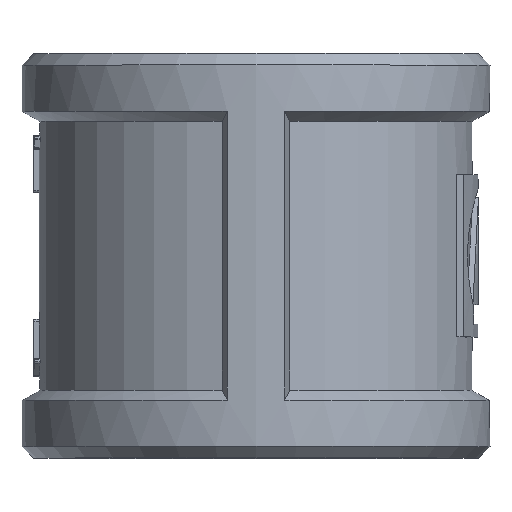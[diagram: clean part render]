
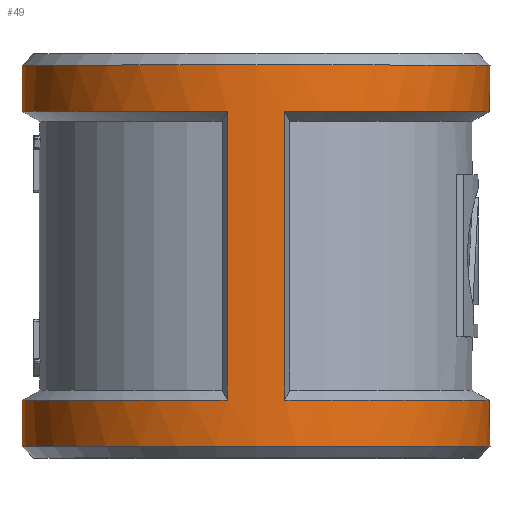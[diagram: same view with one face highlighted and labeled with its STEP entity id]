
A CAD part, top view. The second image highlights one B-rep face of the part: STEP entity #49.
In plain terms, the highlighted cylindrical face has radius 20.25 mm (diameter 40.5 mm), a full revolution.
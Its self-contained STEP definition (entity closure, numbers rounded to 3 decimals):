
#49=ADVANCED_FACE('',(#209,#211,#213,#215),#217,.T.);
#209=FACE_BOUND('',#210,.T.);
#210=EDGE_LOOP('',(#998,#999,#1000,#1001,#1002,#1003));
#211=FACE_OUTER_BOUND('',#212,.T.);
#212=EDGE_LOOP('',(#1004));
#213=FACE_OUTER_BOUND('',#214,.T.);
#214=EDGE_LOOP('',(#1005));
#215=FACE_BOUND('',#216,.T.);
#216=EDGE_LOOP('',(#1006,#1007,#1008,#1009));
#217=CYLINDRICAL_SURFACE('',#218,20.25);
#218=AXIS2_PLACEMENT_3D('',#219,#220,#221);
#219=CARTESIAN_POINT('',(0.,-12.5,0.));
#220=DIRECTION('',(0.,1.,0.));
#221=DIRECTION('',(-1.,0.,0.));
#998=ORIENTED_EDGE('',*,*,#1784,.F.);
#999=ORIENTED_EDGE('',*,*,#1785,.F.);
#1000=ORIENTED_EDGE('',*,*,#1786,.F.);
#1001=ORIENTED_EDGE('',*,*,#1787,.T.);
#1002=ORIENTED_EDGE('',*,*,#1788,.F.);
#1003=ORIENTED_EDGE('',*,*,#1789,.F.);
#1004=ORIENTED_EDGE('',*,*,#1782,.F.);
#1005=ORIENTED_EDGE('',*,*,#1783,.T.);
#1006=ORIENTED_EDGE('',*,*,#1790,.F.);
#1007=ORIENTED_EDGE('',*,*,#1791,.T.);
#1008=ORIENTED_EDGE('',*,*,#1792,.F.);
#1009=ORIENTED_EDGE('',*,*,#1793,.F.);
#1782=EDGE_CURVE('',#2101,#2101,#2102,.T.);
#1783=EDGE_CURVE('',#2103,#2103,#2104,.T.);
#1784=EDGE_CURVE('',#2105,#2106,#2107,.T.);
#1785=EDGE_CURVE('',#2108,#2105,#2109,.T.);
#1786=EDGE_CURVE('',#2110,#2108,#2111,.T.);
#1787=EDGE_CURVE('',#2110,#2112,#2113,.T.);
#1788=EDGE_CURVE('',#2114,#2112,#2115,.F.);
#1789=EDGE_CURVE('',#2106,#2114,#2116,.F.);
#1790=EDGE_CURVE('',#2117,#2118,#2119,.T.);
#1791=EDGE_CURVE('',#2117,#2120,#2121,.T.);
#1792=EDGE_CURVE('',#2122,#2120,#2123,.F.);
#1793=EDGE_CURVE('',#2118,#2122,#2124,.T.);
#2101=VERTEX_POINT('',#2644);
#2102=CIRCLE('',#2645,20.25);
#2103=VERTEX_POINT('',#2649);
#2104=CIRCLE('',#2650,20.25);
#2105=VERTEX_POINT('',#2654);
#2106=VERTEX_POINT('',#2655);
#2107=LINE('',#2656,#2657);
#2108=VERTEX_POINT('',#2659);
#2109=CIRCLE('',#2660,20.25);
#2110=VERTEX_POINT('',#2664);
#2111=CIRCLE('',#2665,20.25);
#2112=VERTEX_POINT('',#2669);
#2113=LINE('',#2670,#2671);
#2114=VERTEX_POINT('',#2673);
#2115=CIRCLE('',#2674,20.25);
#2116=CIRCLE('',#2678,20.25);
#2117=VERTEX_POINT('',#2682);
#2118=VERTEX_POINT('',#2683);
#2119=CIRCLE('',#2684,20.25);
#2120=VERTEX_POINT('',#2688);
#2121=LINE('',#2689,#2690);
#2122=VERTEX_POINT('',#2692);
#2123=CIRCLE('',#2693,20.25);
#2124=LINE('',#2697,#2698);
#2644=CARTESIAN_POINT('',(-20.25,16.5,0.));
#2645=AXIS2_PLACEMENT_3D('',#2646,#2647,#2648);
#2646=CARTESIAN_POINT('',(0.,16.5,0.));
#2647=DIRECTION('',(0.,1.,0.));
#2648=DIRECTION('',(-1.,0.,0.));
#2649=CARTESIAN_POINT('',(-20.25,-16.5,0.));
#2650=AXIS2_PLACEMENT_3D('',#2651,#2652,#2653);
#2651=CARTESIAN_POINT('',(0.,-16.5,0.));
#2652=DIRECTION('',(0.,1.,0.));
#2653=DIRECTION('',(-1.,0.,0.));
#2654=CARTESIAN_POINT('',(-2.5,-12.5,20.095));
#2655=CARTESIAN_POINT('',(-2.5,12.5,20.095));
#2656=CARTESIAN_POINT('',(-2.5,-12.5,20.095));
#2657=VECTOR('',#2658,1.);
#2658=DIRECTION('',(0.,1.,0.));
#2659=CARTESIAN_POINT('',(-20.25,-12.5,0.));
#2660=AXIS2_PLACEMENT_3D('',#2661,#2662,#2663);
#2661=CARTESIAN_POINT('',(0.,-12.5,0.));
#2662=DIRECTION('',(0.,1.,0.));
#2663=DIRECTION('',(-1.,0.,0.));
#2664=CARTESIAN_POINT('',(-2.5,-12.5,-20.095));
#2665=AXIS2_PLACEMENT_3D('',#2666,#2667,#2668);
#2666=CARTESIAN_POINT('',(0.,-12.5,0.));
#2667=DIRECTION('',(0.,1.,0.));
#2668=DIRECTION('',(-0.123,0.,-0.992));
#2669=CARTESIAN_POINT('',(-2.5,12.5,-20.095));
#2670=CARTESIAN_POINT('',(-2.5,-12.5,-20.095));
#2671=VECTOR('',#2672,1.);
#2672=DIRECTION('',(0.,1.,0.));
#2673=CARTESIAN_POINT('',(-20.25,12.5,0.));
#2674=AXIS2_PLACEMENT_3D('',#2675,#2676,#2677);
#2675=CARTESIAN_POINT('',(0.,12.5,0.));
#2676=DIRECTION('',(0.,1.,0.));
#2677=DIRECTION('',(-0.123,0.,-0.992));
#2678=AXIS2_PLACEMENT_3D('',#2679,#2680,#2681);
#2679=CARTESIAN_POINT('',(0.,12.5,0.));
#2680=DIRECTION('',(0.,1.,0.));
#2681=DIRECTION('',(-1.,0.,0.));
#2682=CARTESIAN_POINT('',(2.5,-12.5,20.095));
#2683=CARTESIAN_POINT('',(2.5,-12.5,-20.095));
#2684=AXIS2_PLACEMENT_3D('',#2685,#2686,#2687);
#2685=CARTESIAN_POINT('',(0.,-12.5,0.));
#2686=DIRECTION('',(0.,1.,0.));
#2687=DIRECTION('',(0.123,0.,0.992));
#2688=CARTESIAN_POINT('',(2.5,12.5,20.095));
#2689=CARTESIAN_POINT('',(2.5,-12.5,20.095));
#2690=VECTOR('',#2691,1.);
#2691=DIRECTION('',(0.,1.,0.));
#2692=CARTESIAN_POINT('',(2.5,12.5,-20.095));
#2693=AXIS2_PLACEMENT_3D('',#2694,#2695,#2696);
#2694=CARTESIAN_POINT('',(0.,12.5,0.));
#2695=DIRECTION('',(0.,1.,0.));
#2696=DIRECTION('',(0.123,0.,0.992));
#2697=CARTESIAN_POINT('',(2.5,-12.5,-20.095));
#2698=VECTOR('',#2699,1.);
#2699=DIRECTION('',(0.,1.,0.));
